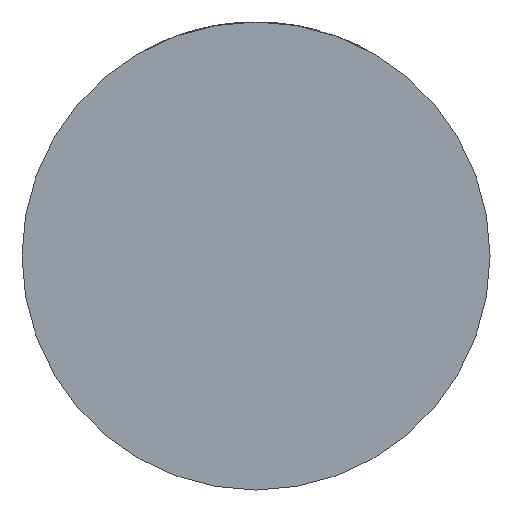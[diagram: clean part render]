
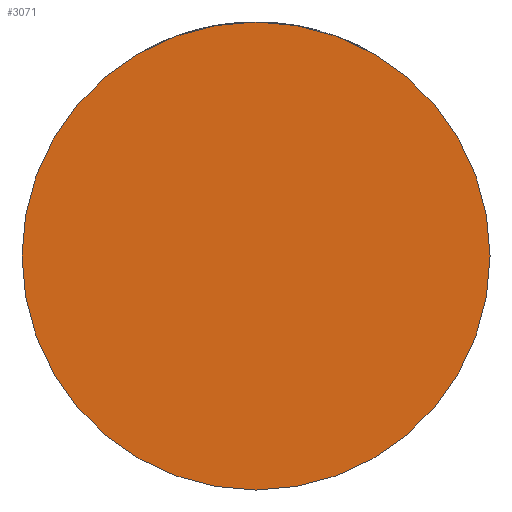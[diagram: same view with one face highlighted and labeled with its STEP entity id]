
A CAD part, front view. The second image highlights one B-rep face of the part: STEP entity #3071.
In plain terms, the highlighted planar face has unit normal (0, -1, 0).
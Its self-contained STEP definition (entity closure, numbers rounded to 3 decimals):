
#55 = AXIS2_PLACEMENT_3D ( 'NONE', #1774, #626, #327 ) ;
#327 = DIRECTION ( 'NONE',  ( 1., 0., 0. ) ) ;
#626 = DIRECTION ( 'NONE',  ( 0., -1., 0. ) ) ;
#721 = CARTESIAN_POINT ( 'NONE',  ( 0., -36., 0. ) ) ;
#1125 = DIRECTION ( 'NONE',  ( 0., -1., 0. ) ) ;
#1555 = VERTEX_POINT ( 'NONE', #2828 ) ;
#1662 = VERTEX_POINT ( 'NONE', #2281 ) ;
#1774 = CARTESIAN_POINT ( 'NONE',  ( 0., -36., 0. ) ) ;
#1816 = AXIS2_PLACEMENT_3D ( 'NONE', #2216, #1125, #1836 ) ;
#1836 = DIRECTION ( 'NONE',  ( 1., 0., 0. ) ) ;
#1896 = AXIS2_PLACEMENT_3D ( 'NONE', #721, #3504, #3867 ) ;
#2197 = PLANE ( 'NONE',  #1816 ) ;
#2216 = CARTESIAN_POINT ( 'NONE',  ( 0., -36., 0. ) ) ;
#2281 = CARTESIAN_POINT ( 'NONE',  ( 39., -36., 0. ) ) ;
#2509 = EDGE_CURVE ( 'NONE', #1662, #1555, #3271, .T. ) ;
#2671 = ORIENTED_EDGE ( 'NONE', *, *, #2509, .T. ) ;
#2749 = EDGE_LOOP ( 'NONE', ( #4488, #2671 ) ) ;
#2828 = CARTESIAN_POINT ( 'NONE',  ( -39., -36., 0. ) ) ;
#2870 = EDGE_CURVE ( 'NONE', #1555, #1662, #2972, .T. ) ;
#2972 = CIRCLE ( 'NONE', #55, 39. ) ;
#3071 = ADVANCED_FACE ( 'NONE', ( #3535 ), #2197, .T. ) ;
#3271 = CIRCLE ( 'NONE', #1896, 39. ) ;
#3504 = DIRECTION ( 'NONE',  ( 0., -1., 0. ) ) ;
#3535 = FACE_OUTER_BOUND ( 'NONE', #2749, .T. ) ;
#3867 = DIRECTION ( 'NONE',  ( 1., 0., 0. ) ) ;
#4488 = ORIENTED_EDGE ( 'NONE', *, *, #2870, .T. ) ;
